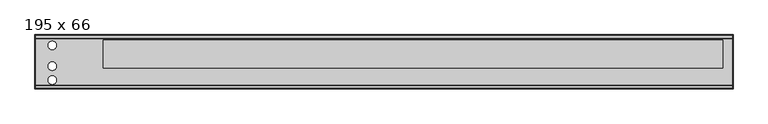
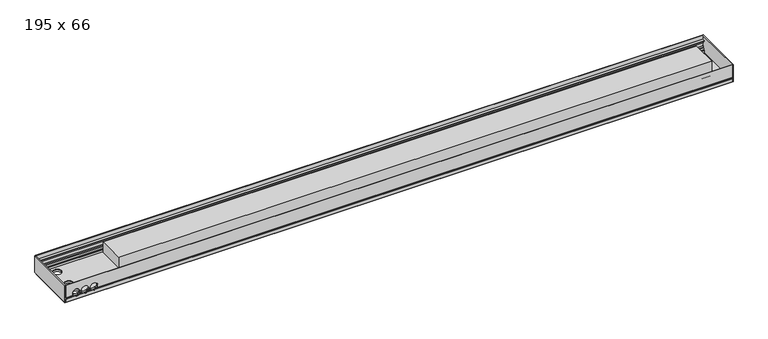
"""IFC4 building model written with IfcOpenShell, lengths in millimetres: proxy geometry, Mohlenhof_Внутрипольный конвектор_QSKM : 195 x 66."""

from ifc_helpers import new_model, si_unit, point, frame, frame_2d, origin, place, context, project, spatial, polyline, circle_curve, ellipse_curve, trimmed, segment, composite_curve, outline, extrude, source, transform, mapped, element, save
from ifc_brep_helpers import plane_surface, revolved_surface, advanced_brep


def proxy_195_x_66_e939ad13(model_context):
    return source(origin(), model_context, "Body", "SolidModel", [
        advanced_brep(
        [(1248.0, -295.0, -48.5473602), (1248.0, -293.5, -49.2468216), (1248.0, -292.5, -49.2468216), (1248.0, -292.5, -46.0008038), (1248.0, -290.0, -46.0008038), (1248.0, -290.0, -56.5008038), (1248.0, -292.5, -56.5008038), (1248.0, -292.5, -53.2468216), (1248.0, -293.5, -53.2468216), (1248.0, -295.0, -53.9462831), (1248.0, -295.0, -66.5), (1248.0, -291.0, -66.5), (1248.0, -291.0, -65.2), (1248.0, -293.0, -65.2), (1248.0, -293.0, -62.5), (1248.0, -282.0, -62.5), (1248.0, -282.0, -54.9172677), (1248.0, -283.4172677, -53.5), (1248.0, -287.0, -53.5), (1248.0, -287.0, -45.91), (1248.0, -289.0, -43.91), (1248.0, -289.0, -39.5), (1248.0, -290.0, -39.5), (1248.0, -290.0, -43.5), (1248.0, -292.4956439, -43.5), (1248.0, -292.4956439, -23.0), (1248.0, -290.0, -23.0), (1248.0, -290.0, -27.0), (1248.0, -289.0, -27.0), (1248.0, -289.0, -17.0), (1248.0, -283.3956439, -17.0), (1248.0, -283.3956439, -15.0), (1248.0, -293.4, -15.0), (1248.0, -293.4, 0.0), (1248.0, -295.0, 0.0), (-1248.0, -295.0, -48.5473602), (-1248.0, -295.0, 0.0), (-1248.0, -293.4, 0.0), (-1248.0, -293.4, -15.0), (-1248.0, -283.3956439, -15.0), (-1248.0, -283.3956439, -17.0), (-1248.0, -289.0, -17.0), (-1248.0, -289.0, -27.0), (-1248.0, -290.0, -27.0), (-1248.0, -290.0, -23.0), (-1248.0, -292.4956439, -23.0), (-1248.0, -292.4956439, -43.5), (-1248.0, -290.0, -43.5), (-1248.0, -290.0, -39.5), (-1248.0, -289.0, -39.5), (-1248.0, -289.0, -43.91), (-1248.0, -287.0, -45.91), (-1248.0, -287.0, -53.5), (-1248.0, -283.4172677, -53.5), (-1248.0, -282.0, -54.9172677), (-1248.0, -282.0, -62.5), (-1248.0, -293.0, -62.5), (-1248.0, -293.0, -65.2), (-1248.0, -291.0, -65.2), (-1248.0, -291.0, -66.5), (-1248.0, -295.0, -66.5), (-1248.0, -295.0, -53.9462831), (-1248.0, -293.5, -53.2468216), (-1248.0, -292.5, -53.2468216), (-1248.0, -292.5, -56.5008038), (-1248.0, -290.0, -56.5008038), (-1248.0, -290.0, -46.0008038), (-1248.0, -292.5, -46.0008038), (-1248.0, -292.5, -49.2468216), (-1248.0, -293.5, -49.2468216), (-1128.7585985, -295.0, -48.5473602), (-1129.155283, -293.5, -49.2468216), (-1220.844717, -293.5, -49.2468216), (-1221.2414015, -295.0, -48.5473602), (-1188.2414015, -295.0, -48.5473602), (-1194.7585985, -295.0, -48.5473602), (-1195.155283, -293.5, -49.2468216), (-1187.844717, -293.5, -49.2468216), (-1155.2414015, -295.0, -48.5473602), (-1161.7585985, -295.0, -48.5473602), (-1162.155283, -293.5, -49.2468216), (-1154.844717, -293.5, -49.2468216), (-1129.155283, -292.5, -49.2468216), (-1220.844717, -292.5, -49.2468216), (-1195.155283, -292.5, -49.2468216), (-1187.844717, -292.5, -49.2468216), (-1162.155283, -292.5, -49.2468216), (-1154.844717, -292.5, -49.2468216), (-1127.6911648, -292.5, -46.0008038), (-1222.3088352, -292.5, -46.0008038), (-1193.6911648, -292.5, -46.0008038), (-1189.3088352, -292.5, -46.0008038), (-1160.6911648, -292.5, -46.0008038), (-1156.3088352, -292.5, -46.0008038), (-1127.6911648, -290.0, -46.0008038), (-1222.3088352, -290.0, -46.0008038), (-1193.6911648, -290.0, -46.0008038), (-1189.3088352, -290.0, -46.0008038), (-1160.6911648, -290.0, -46.0008038), (-1156.3088352, -290.0, -46.0008038), (-1217.328032, -292.5, -53.2468216), (-1198.671968, -292.5, -53.2468216), (-1184.328032, -292.5, -53.2468216), (-1165.671968, -292.5, -53.2468216), (-1151.328032, -292.5, -53.2468216), (-1132.671968, -292.5, -53.2468216), (-1132.671968, -293.5, -53.2468216), (-1217.328032, -293.5, -53.2468216), (-1198.671968, -293.5, -53.2468216), (-1184.328032, -293.5, -53.2468216), (-1165.671968, -293.5, -53.2468216), (-1151.328032, -293.5, -53.2468216), (-1133.6280208, -295.0, -53.9462831), (-1216.3719792, -295.0, -53.9462831), (-1199.6280208, -295.0, -53.9462831), (-1183.3719792, -295.0, -53.9462831), (-1166.6280208, -295.0, -53.9462831), (-1150.3719792, -295.0, -53.9462831), (-1214.7064841, -282.0, -54.9172677), (-1201.2935159, -282.0, -54.9172677), (-1181.7064841, -282.0, -54.9172677), (-1168.2935159, -282.0, -54.9172677), (-1148.7064841, -282.0, -54.9172677), (-1135.2935159, -282.0, -54.9172677), (-1133.0, -283.4172677, -53.5), (-1217.0, -283.4172677, -53.5), (-1199.0, -283.4172677, -53.5), (-1184.0, -283.4172677, -53.5), (-1166.0, -283.4172677, -53.5), (-1151.0, -283.4172677, -53.5), (-1133.0, -287.0, -53.5), (-1217.0, -287.0, -53.5), (-1199.0, -287.0, -53.5), (-1184.0, -287.0, -53.5), (-1166.0, -287.0, -53.5), (-1151.0, -287.0, -53.5), (-1127.6629187, -287.0, -45.91), (-1222.3370813, -287.0, -45.91), (-1193.6629187, -287.0, -45.91), (-1189.3370813, -287.0, -45.91), (-1160.6629187, -287.0, -45.91), (-1156.3370813, -287.0, -45.91), (-1127.1948691, -289.0, -43.91), (-1222.8051309, -289.0, -43.91), (-1193.1948691, -289.0, -43.91), (-1189.8051309, -289.0, -43.91), (-1160.1948691, -289.0, -43.91), (-1156.8051309, -289.0, -43.91), (-1127.0, -289.0, -41.5), (-1127.1339313, -289.0, -39.5), (-1222.8660687, -289.0, -39.5), (-1223.0, -289.0, -41.5), (-1193.0, -289.0, -41.5), (-1193.1339313, -289.0, -39.5), (-1189.8660687, -289.0, -39.5), (-1190.0, -289.0, -41.5), (-1160.0, -289.0, -41.5), (-1160.1339313, -289.0, -39.5), (-1156.8660687, -289.0, -39.5), (-1157.0, -289.0, -41.5), (-1127.1339313, -290.0, -39.5), (-1222.8660687, -290.0, -39.5), (-1193.1339313, -290.0, -39.5), (-1189.8660687, -290.0, -39.5), (-1160.1339313, -290.0, -39.5), (-1156.8660687, -290.0, -39.5), (-1127.0, -290.0, -41.5), (-1127.1339313, -290.0, -43.5), (-1222.8660687, -290.0, -43.5), (-1223.0, -290.0, -41.5), (-1193.0, -290.0, -41.5), (-1193.1339313, -290.0, -43.5), (-1189.8660687, -290.0, -43.5), (-1190.0, -290.0, -41.5), (-1160.0, -290.0, -41.5), (-1160.1339313, -290.0, -43.5), (-1156.8660687, -290.0, -43.5), (-1157.0, -290.0, -41.5), (-1127.1339313, -292.4956439, -43.5), (-1222.8660687, -292.4956439, -43.5), (-1193.1339313, -292.4956439, -43.5), (-1189.8660687, -292.4956439, -43.5), (-1160.1339313, -292.4956439, -43.5), (-1156.8660687, -292.4956439, -43.5), (-1127.0, -292.4956439, -41.5), (-1157.0, -292.4956439, -41.5), (-1160.0, -292.4956439, -41.5), (-1190.0, -292.4956439, -41.5), (-1193.0, -292.4956439, -41.5), (-1223.0, -292.4956439, -41.5), (-1211.8405729, -290.0, -27.0), (-1204.1594271, -290.0, -27.0), (-1178.8405729, -290.0, -27.0), (-1171.1594271, -290.0, -27.0), (-1145.8405729, -290.0, -27.0), (-1138.1594271, -290.0, -27.0), (-1138.1594271, -289.0, -27.0), (-1211.8405729, -289.0, -27.0), (-1204.1594271, -289.0, -27.0), (-1178.8405729, -289.0, -27.0), (-1171.1594271, -289.0, -27.0), (-1145.8405729, -289.0, -27.0), (-1223.0, -295.0, -41.5), (-1193.0, -295.0, -41.5), (-1190.0, -295.0, -41.5), (-1160.0, -295.0, -41.5), (-1157.0, -295.0, -41.5), (-1127.0, -295.0, -41.5)],
        [
            (0, 1),
            (1, 2),
            (2, 3),
            (3, 4),
            (4, 5),
            (5, 6),
            (6, 7),
            (7, 8),
            (8, 9),
            (9, 10),
            (10, 11),
            (11, 12),
            (12, 13),
            (13, 14),
            (14, 15),
            (15, 16),
            (16, 17),
            (17, 18),
            (18, 19),
            (19, 20),
            (20, 21),
            (21, 22),
            (22, 23),
            (23, 24),
            (24, 25),
            (25, 26),
            (26, 27),
            (27, 28),
            (28, 29),
            (29, 30),
            (30, 31),
            (31, 32),
            (32, 33),
            (33, 34),
            (34, 0),
            (35, 36),
            (36, 37),
            (37, 38),
            (38, 39),
            (39, 40),
            (40, 41),
            (41, 42),
            (42, 43),
            (43, 44),
            (44, 45),
            (45, 46),
            (46, 47),
            (47, 48),
            (48, 49),
            (49, 50),
            (50, 51),
            (51, 52),
            (52, 53),
            (53, 54),
            (54, 55),
            (55, 56),
            (56, 57),
            (57, 58),
            (58, 59),
            (59, 60),
            (60, 61),
            (61, 62),
            (62, 63),
            (63, 64),
            (64, 65),
            (65, 66),
            (66, 67),
            (67, 68),
            (68, 69),
            (69, 35),
            (0, 70),
            (70, 71, ellipse_curve(frame((-1142.0, -310.1131126, -41.5), z_axis=(0.0, 0.42261826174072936, 0.9063077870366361), x_axis=(0.0, -0.906307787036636, 0.4226182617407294)), 35.4930237, 15.0)),
            (71, 1),
            (69, 72),
            (72, 73, ellipse_curve(frame((-1208.0, -310.1131126, -41.5), z_axis=(0.0, 0.42261826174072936, 0.9063077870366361), x_axis=(0.0, -0.906307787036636, 0.4226182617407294)), 35.4930237, 15.0)),
            (73, 35),
            (74, 75),
            (75, 76, ellipse_curve(frame((-1208.0, -310.1131126, -41.5), z_axis=(0.0, 0.42261826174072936, 0.9063077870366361), x_axis=(0.0, -0.906307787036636, 0.4226182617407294)), 35.4930237, 15.0)),
            (76, 77),
            (77, 74, ellipse_curve(frame((-1175.0, -310.1131126, -41.5), z_axis=(0.0, 0.42261826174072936, 0.9063077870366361), x_axis=(0.0, -0.906307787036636, 0.4226182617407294)), 35.4930237, 15.0)),
            (78, 79),
            (79, 80, ellipse_curve(frame((-1175.0, -310.1131126, -41.5), z_axis=(0.0, 0.42261826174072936, 0.9063077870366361), x_axis=(0.0, -0.906307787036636, 0.4226182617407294)), 35.4930237, 15.0)),
            (80, 81),
            (81, 78, ellipse_curve(frame((-1142.0, -310.1131126, -41.5), z_axis=(0.0, 0.42261826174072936, 0.9063077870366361), x_axis=(0.0, -0.906307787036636, 0.4226182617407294)), 35.4930237, 15.0)),
            (71, 82),
            (82, 2),
            (68, 83),
            (83, 72),
            (76, 84),
            (84, 85),
            (85, 77),
            (80, 86),
            (86, 87),
            (87, 81),
            (82, 88, circle_curve(frame((-1142.0, -292.5, -41.5), z_axis=(0.0, -1.0, 0.0), x_axis=(1.0, 0.0, 0.0)), 15.0)),
            (88, 3),
            (67, 89),
            (89, 83, circle_curve(frame((-1208.0, -292.5, -41.5), z_axis=(0.0, -1.0, 0.0), x_axis=(1.0, 0.0, 0.0)), 15.0)),
            (84, 90, circle_curve(frame((-1208.0, -292.5, -41.5), z_axis=(0.0, -1.0, 0.0), x_axis=(1.0, 0.0, 0.0)), 15.0)),
            (90, 91),
            (91, 85, circle_curve(frame((-1175.0, -292.5, -41.5), z_axis=(0.0, -1.0, 0.0), x_axis=(1.0, 0.0, 0.0)), 15.0)),
            (86, 92, circle_curve(frame((-1175.0, -292.5, -41.5), z_axis=(0.0, -1.0, 0.0), x_axis=(1.0, 0.0, 0.0)), 15.0)),
            (92, 93),
            (93, 87, circle_curve(frame((-1142.0, -292.5, -41.5), z_axis=(0.0, -1.0, 0.0), x_axis=(1.0, 0.0, 0.0)), 15.0)),
            (88, 94),
            (94, 4),
            (66, 95),
            (95, 89),
            (90, 96),
            (96, 97),
            (97, 91),
            (92, 98),
            (98, 99),
            (99, 93),
            (94, 99, circle_curve(frame((-1142.0, -290.0, -41.5), z_axis=(0.0, 1.0, 0.0), x_axis=(1.0, 0.0, 0.0)), 15.0)),
            (98, 97, circle_curve(frame((-1175.0, -290.0, -41.5), z_axis=(0.0, 1.0, 0.0), x_axis=(1.0, 0.0, 0.0)), 15.0)),
            (96, 95, circle_curve(frame((-1208.0, -290.0, -41.5), z_axis=(0.0, 1.0, 0.0), x_axis=(1.0, 0.0, 0.0)), 15.0)),
            (65, 5),
            (64, 6),
            (63, 100),
            (100, 101, circle_curve(frame((-1208.0, -292.5, -41.5), z_axis=(0.0, -1.0, 0.0), x_axis=(1.0, 0.0, 0.0)), 15.0)),
            (101, 102),
            (102, 103, circle_curve(frame((-1175.0, -292.5, -41.5), z_axis=(0.0, -1.0, 0.0), x_axis=(1.0, 0.0, 0.0)), 15.0)),
            (103, 104),
            (104, 105, circle_curve(frame((-1142.0, -292.5, -41.5), z_axis=(0.0, -1.0, 0.0), x_axis=(1.0, 0.0, 0.0)), 15.0)),
            (105, 7),
            (105, 106),
            (106, 8),
            (62, 107),
            (107, 100),
            (101, 108),
            (108, 109),
            (109, 102),
            (103, 110),
            (110, 111),
            (111, 104),
            (106, 112, ellipse_curve(frame((-1142.0, -268.3088597, -41.5), z_axis=(0.0, 0.4226182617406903, -0.9063077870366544), x_axis=(0.0, -0.9063077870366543, -0.42261826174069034)), 35.4930237, 15.0)),
            (112, 9),
            (61, 113),
            (113, 107, ellipse_curve(frame((-1208.0, -268.3088597, -41.5), z_axis=(0.0, 0.4226182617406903, -0.9063077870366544), x_axis=(0.0, -0.9063077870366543, -0.42261826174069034)), 35.4930237, 15.0)),
            (108, 114, ellipse_curve(frame((-1208.0, -268.3088597, -41.5), z_axis=(0.0, 0.4226182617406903, -0.9063077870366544), x_axis=(0.0, -0.9063077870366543, -0.42261826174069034)), 35.4930237, 15.0)),
            (114, 115),
            (115, 109, ellipse_curve(frame((-1175.0, -268.3088597, -41.5), z_axis=(0.0, 0.4226182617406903, -0.9063077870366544), x_axis=(0.0, -0.9063077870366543, -0.42261826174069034)), 35.4930237, 15.0)),
            (110, 116, ellipse_curve(frame((-1175.0, -268.3088597, -41.5), z_axis=(0.0, 0.4226182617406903, -0.9063077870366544), x_axis=(0.0, -0.9063077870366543, -0.42261826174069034)), 35.4930237, 15.0)),
            (116, 117),
            (117, 111, ellipse_curve(frame((-1142.0, -268.3088597, -41.5), z_axis=(0.0, 0.4226182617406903, -0.9063077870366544), x_axis=(0.0, -0.9063077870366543, -0.42261826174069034)), 35.4930237, 15.0)),
            (112, 117, circle_curve(frame((-1142.0, -295.0, -41.5), z_axis=(0.0, 1.0, 0.0), x_axis=(1.0, 0.0, 0.0)), 15.0)),
            (116, 115, circle_curve(frame((-1175.0, -295.0, -41.5), z_axis=(0.0, 1.0, 0.0), x_axis=(1.0, 0.0, 0.0)), 15.0)),
            (114, 113, circle_curve(frame((-1208.0, -295.0, -41.5), z_axis=(0.0, 1.0, 0.0), x_axis=(1.0, 0.0, 0.0)), 15.0)),
            (60, 10),
            (59, 11),
            (58, 12),
            (57, 13),
            (56, 14),
            (55, 15),
            (54, 118),
            (118, 119, circle_curve(frame((-1208.0, -282.0, -41.5), z_axis=(0.0, -1.0, 0.0), x_axis=(1.0, 0.0, 0.0)), 15.0)),
            (119, 120),
            (120, 121, circle_curve(frame((-1175.0, -282.0, -41.5), z_axis=(0.0, -1.0, 0.0), x_axis=(1.0, 0.0, 0.0)), 15.0)),
            (121, 122),
            (122, 123, circle_curve(frame((-1142.0, -282.0, -41.5), z_axis=(0.0, -1.0, 0.0), x_axis=(1.0, 0.0, 0.0)), 15.0)),
            (123, 16),
            (123, 124, ellipse_curve(frame((-1142.0, -295.4172677, -41.5), z_axis=(0.0, -0.7071067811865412, -0.7071067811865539), x_axis=(0.0, -0.7071067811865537, 0.7071067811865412)), 21.2132034, 15.0)),
            (124, 17),
            (53, 125),
            (125, 118, ellipse_curve(frame((-1208.0, -295.4172677, -41.5), z_axis=(0.0, -0.7071067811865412, -0.7071067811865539), x_axis=(0.0, -0.7071067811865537, 0.7071067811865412)), 21.2132034, 15.0)),
            (119, 126, ellipse_curve(frame((-1208.0, -295.4172677, -41.5), z_axis=(0.0, -0.7071067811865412, -0.7071067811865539), x_axis=(0.0, -0.7071067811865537, 0.7071067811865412)), 21.2132034, 15.0)),
            (126, 127),
            (127, 120, ellipse_curve(frame((-1175.0, -295.4172677, -41.5), z_axis=(0.0, -0.7071067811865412, -0.7071067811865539), x_axis=(0.0, -0.7071067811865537, 0.7071067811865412)), 21.2132034, 15.0)),
            (121, 128, ellipse_curve(frame((-1175.0, -295.4172677, -41.5), z_axis=(0.0, -0.7071067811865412, -0.7071067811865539), x_axis=(0.0, -0.7071067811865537, 0.7071067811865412)), 21.2132034, 15.0)),
            (128, 129),
            (129, 122, ellipse_curve(frame((-1142.0, -295.4172677, -41.5), z_axis=(0.0, -0.7071067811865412, -0.7071067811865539), x_axis=(0.0, -0.7071067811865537, 0.7071067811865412)), 21.2132034, 15.0)),
            (124, 130),
            (130, 18),
            (52, 131),
            (131, 125),
            (126, 132),
            (132, 133),
            (133, 127),
            (128, 134),
            (134, 135),
            (135, 129),
            (130, 136, circle_curve(frame((-1142.0, -287.0, -41.5), z_axis=(0.0, -1.0, 0.0), x_axis=(1.0, 0.0, 0.0)), 15.0)),
            (136, 19),
            (51, 137),
            (137, 131, circle_curve(frame((-1208.0, -287.0, -41.5), z_axis=(0.0, -1.0, 0.0), x_axis=(1.0, 0.0, 0.0)), 15.0)),
            (132, 138, circle_curve(frame((-1208.0, -287.0, -41.5), z_axis=(0.0, -1.0, 0.0), x_axis=(1.0, 0.0, 0.0)), 15.0)),
            (138, 139),
            (139, 133, circle_curve(frame((-1175.0, -287.0, -41.5), z_axis=(0.0, -1.0, 0.0), x_axis=(1.0, 0.0, 0.0)), 15.0)),
            (134, 140, circle_curve(frame((-1175.0, -287.0, -41.5), z_axis=(0.0, -1.0, 0.0), x_axis=(1.0, 0.0, 0.0)), 15.0)),
            (140, 141),
            (141, 135, circle_curve(frame((-1142.0, -287.0, -41.5), z_axis=(0.0, -1.0, 0.0), x_axis=(1.0, 0.0, 0.0)), 15.0)),
            (136, 142, ellipse_curve(frame((-1142.0, -291.41, -41.5), z_axis=(0.0, -0.7071067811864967, -0.7071067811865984), x_axis=(0.0, -0.7071067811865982, 0.7071067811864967)), 21.2132034, 15.0)),
            (142, 20),
            (50, 143),
            (143, 137, ellipse_curve(frame((-1208.0, -291.41, -41.5), z_axis=(0.0, -0.7071067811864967, -0.7071067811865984), x_axis=(0.0, -0.7071067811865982, 0.7071067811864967)), 21.2132034, 15.0)),
            (138, 144, ellipse_curve(frame((-1208.0, -291.41, -41.5), z_axis=(0.0, -0.7071067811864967, -0.7071067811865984), x_axis=(0.0, -0.7071067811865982, 0.7071067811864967)), 21.2132034, 15.0)),
            (144, 145),
            (145, 139, ellipse_curve(frame((-1175.0, -291.41, -41.5), z_axis=(0.0, -0.7071067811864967, -0.7071067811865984), x_axis=(0.0, -0.7071067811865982, 0.7071067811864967)), 21.2132034, 15.0)),
            (140, 146, ellipse_curve(frame((-1175.0, -291.41, -41.5), z_axis=(0.0, -0.7071067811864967, -0.7071067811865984), x_axis=(0.0, -0.7071067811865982, 0.7071067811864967)), 21.2132034, 15.0)),
            (146, 147),
            (147, 141, ellipse_curve(frame((-1142.0, -291.41, -41.5), z_axis=(0.0, -0.7071067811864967, -0.7071067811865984), x_axis=(0.0, -0.7071067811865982, 0.7071067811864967)), 21.2132034, 15.0)),
            (142, 148, circle_curve(frame((-1142.0, -289.0, -41.5), z_axis=(0.0, -1.0, 0.0), x_axis=(1.0, 0.0, 0.0)), 15.0)),
            (148, 149, circle_curve(frame((-1142.0, -289.0, -41.5), z_axis=(0.0, -1.0, 0.0), x_axis=(1.0, 0.0, 0.0)), 15.0)),
            (149, 21),
            (49, 150),
            (150, 151, circle_curve(frame((-1208.0, -289.0, -41.5), z_axis=(0.0, -1.0, 0.0), x_axis=(1.0, 0.0, 0.0)), 15.0)),
            (151, 143, circle_curve(frame((-1208.0, -289.0, -41.5), z_axis=(0.0, -1.0, 0.0), x_axis=(1.0, 0.0, 0.0)), 15.0)),
            (144, 152, circle_curve(frame((-1208.0, -289.0, -41.5), z_axis=(0.0, -1.0, 0.0), x_axis=(1.0, 0.0, 0.0)), 15.0)),
            (152, 153, circle_curve(frame((-1208.0, -289.0, -41.5), z_axis=(0.0, -1.0, 0.0), x_axis=(1.0, 0.0, 0.0)), 15.0)),
            (153, 154),
            (154, 155, circle_curve(frame((-1175.0, -289.0, -41.5), z_axis=(0.0, -1.0, 0.0), x_axis=(1.0, 0.0, 0.0)), 15.0)),
            (155, 145, circle_curve(frame((-1175.0, -289.0, -41.5), z_axis=(0.0, -1.0, 0.0), x_axis=(1.0, 0.0, 0.0)), 15.0)),
            (146, 156, circle_curve(frame((-1175.0, -289.0, -41.5), z_axis=(0.0, -1.0, 0.0), x_axis=(1.0, 0.0, 0.0)), 15.0)),
            (156, 157, circle_curve(frame((-1175.0, -289.0, -41.5), z_axis=(0.0, -1.0, 0.0), x_axis=(1.0, 0.0, 0.0)), 15.0)),
            (157, 158),
            (158, 159, circle_curve(frame((-1142.0, -289.0, -41.5), z_axis=(0.0, -1.0, 0.0), x_axis=(1.0, 0.0, 0.0)), 15.0)),
            (159, 147, circle_curve(frame((-1142.0, -289.0, -41.5), z_axis=(0.0, -1.0, 0.0), x_axis=(1.0, 0.0, 0.0)), 15.0)),
            (149, 160),
            (160, 22),
            (48, 161),
            (161, 150),
            (153, 162),
            (162, 163),
            (163, 154),
            (157, 164),
            (164, 165),
            (165, 158),
            (160, 166, circle_curve(frame((-1142.0, -290.0, -41.5), z_axis=(0.0, 1.0, 0.0), x_axis=(1.0, 0.0, 0.0)), 15.0)),
            (166, 167, circle_curve(frame((-1142.0, -290.0, -41.5), z_axis=(0.0, 1.0, 0.0), x_axis=(1.0, 0.0, 0.0)), 15.0)),
            (167, 23),
            (47, 168),
            (168, 169, circle_curve(frame((-1208.0, -290.0, -41.5), z_axis=(0.0, 1.0, 0.0), x_axis=(1.0, 0.0, 0.0)), 15.0)),
            (169, 161, circle_curve(frame((-1208.0, -290.0, -41.5), z_axis=(0.0, 1.0, 0.0), x_axis=(1.0, 0.0, 0.0)), 15.0)),
            (162, 170, circle_curve(frame((-1208.0, -290.0, -41.5), z_axis=(0.0, 1.0, 0.0), x_axis=(1.0, 0.0, 0.0)), 15.0)),
            (170, 171, circle_curve(frame((-1208.0, -290.0, -41.5), z_axis=(0.0, 1.0, 0.0), x_axis=(1.0, 0.0, 0.0)), 15.0)),
            (171, 172),
            (172, 173, circle_curve(frame((-1175.0, -290.0, -41.5), z_axis=(0.0, 1.0, 0.0), x_axis=(1.0, 0.0, 0.0)), 15.0)),
            (173, 163, circle_curve(frame((-1175.0, -290.0, -41.5), z_axis=(0.0, 1.0, 0.0), x_axis=(1.0, 0.0, 0.0)), 15.0)),
            (164, 174, circle_curve(frame((-1175.0, -290.0, -41.5), z_axis=(0.0, 1.0, 0.0), x_axis=(1.0, 0.0, 0.0)), 15.0)),
            (174, 175, circle_curve(frame((-1175.0, -290.0, -41.5), z_axis=(0.0, 1.0, 0.0), x_axis=(1.0, 0.0, 0.0)), 15.0)),
            (175, 176),
            (176, 177, circle_curve(frame((-1142.0, -290.0, -41.5), z_axis=(0.0, 1.0, 0.0), x_axis=(1.0, 0.0, 0.0)), 15.0)),
            (177, 165, circle_curve(frame((-1142.0, -290.0, -41.5), z_axis=(0.0, 1.0, 0.0), x_axis=(1.0, 0.0, 0.0)), 15.0)),
            (167, 178),
            (178, 24),
            (46, 179),
            (179, 168),
            (171, 180),
            (180, 181),
            (181, 172),
            (175, 182),
            (182, 183),
            (183, 176),
            (178, 184, circle_curve(frame((-1142.0, -292.4956439, -41.5), z_axis=(0.0, -1.0, 0.0), x_axis=(1.0, 0.0, 0.0)), 15.0)),
            (184, 185, circle_curve(frame((-1142.0, -292.4956439, -41.5), z_axis=(0.0, -1.0, 0.0), x_axis=(1.0, 0.0, 0.0)), 15.0)),
            (185, 183, circle_curve(frame((-1142.0, -292.4956439, -41.5), z_axis=(0.0, -1.0, 0.0), x_axis=(1.0, 0.0, 0.0)), 15.0)),
            (182, 186, circle_curve(frame((-1175.0, -292.4956439, -41.5), z_axis=(0.0, -1.0, 0.0), x_axis=(1.0, 0.0, 0.0)), 15.0)),
            (186, 187, circle_curve(frame((-1175.0, -292.4956439, -41.5), z_axis=(0.0, -1.0, 0.0), x_axis=(1.0, 0.0, 0.0)), 15.0)),
            (187, 181, circle_curve(frame((-1175.0, -292.4956439, -41.5), z_axis=(0.0, -1.0, 0.0), x_axis=(1.0, 0.0, 0.0)), 15.0)),
            (180, 188, circle_curve(frame((-1208.0, -292.4956439, -41.5), z_axis=(0.0, -1.0, 0.0), x_axis=(1.0, 0.0, 0.0)), 15.0)),
            (188, 189, circle_curve(frame((-1208.0, -292.4956439, -41.5), z_axis=(0.0, -1.0, 0.0), x_axis=(1.0, 0.0, 0.0)), 15.0)),
            (189, 179, circle_curve(frame((-1208.0, -292.4956439, -41.5), z_axis=(0.0, -1.0, 0.0), x_axis=(1.0, 0.0, 0.0)), 15.0)),
            (45, 25),
            (44, 26),
            (43, 190),
            (190, 191, circle_curve(frame((-1208.0, -290.0, -41.5), z_axis=(0.0, 1.0, 0.0), x_axis=(1.0, 0.0, 0.0)), 15.0)),
            (191, 192),
            (192, 193, circle_curve(frame((-1175.0, -290.0, -41.5), z_axis=(0.0, 1.0, 0.0), x_axis=(1.0, 0.0, 0.0)), 15.0)),
            (193, 194),
            (194, 195, circle_curve(frame((-1142.0, -290.0, -41.5), z_axis=(0.0, 1.0, 0.0), x_axis=(1.0, 0.0, 0.0)), 15.0)),
            (195, 27),
            (195, 196),
            (196, 28),
            (42, 197),
            (197, 190),
            (191, 198),
            (198, 199),
            (199, 192),
            (193, 200),
            (200, 201),
            (201, 194),
            (196, 201, circle_curve(frame((-1142.0, -289.0, -41.5), z_axis=(0.0, -1.0, 0.0), x_axis=(1.0, 0.0, 0.0)), 15.0)),
            (200, 199, circle_curve(frame((-1175.0, -289.0, -41.5), z_axis=(0.0, -1.0, 0.0), x_axis=(1.0, 0.0, 0.0)), 15.0)),
            (198, 197, circle_curve(frame((-1208.0, -289.0, -41.5), z_axis=(0.0, -1.0, 0.0), x_axis=(1.0, 0.0, 0.0)), 15.0)),
            (41, 29),
            (40, 30),
            (39, 31),
            (38, 32),
            (37, 33),
            (36, 34),
            (73, 202, circle_curve(frame((-1208.0, -295.0, -41.5), z_axis=(0.0, 1.0, 0.0), x_axis=(1.0, 0.0, 0.0)), 15.0)),
            (202, 203, circle_curve(frame((-1208.0, -295.0, -41.5), z_axis=(0.0, 1.0, 0.0), x_axis=(1.0, 0.0, 0.0)), 15.0)),
            (203, 75, circle_curve(frame((-1208.0, -295.0, -41.5), z_axis=(0.0, 1.0, 0.0), x_axis=(1.0, 0.0, 0.0)), 15.0)),
            (74, 204, circle_curve(frame((-1175.0, -295.0, -41.5), z_axis=(0.0, 1.0, 0.0), x_axis=(1.0, 0.0, 0.0)), 15.0)),
            (204, 205, circle_curve(frame((-1175.0, -295.0, -41.5), z_axis=(0.0, 1.0, 0.0), x_axis=(1.0, 0.0, 0.0)), 15.0)),
            (205, 79, circle_curve(frame((-1175.0, -295.0, -41.5), z_axis=(0.0, 1.0, 0.0), x_axis=(1.0, 0.0, 0.0)), 15.0)),
            (78, 206, circle_curve(frame((-1142.0, -295.0, -41.5), z_axis=(0.0, 1.0, 0.0), x_axis=(1.0, 0.0, 0.0)), 15.0)),
            (206, 207, circle_curve(frame((-1142.0, -295.0, -41.5), z_axis=(0.0, 1.0, 0.0), x_axis=(1.0, 0.0, 0.0)), 15.0)),
            (207, 70, circle_curve(frame((-1142.0, -295.0, -41.5), z_axis=(0.0, 1.0, 0.0), x_axis=(1.0, 0.0, 0.0)), 15.0)),
            (151, 169),
            (189, 202),
            (203, 188),
            (170, 152),
            (155, 173),
            (187, 204),
            (205, 186),
            (174, 156),
            (159, 177),
            (185, 206),
            (207, 184),
            (166, 148),
        ],
        [
            plane_surface(frame((1248.0, -293.0, -62.5), z_axis=(1.0, 0.0, 0.0), x_axis=(0.0, 0.0, 1.0))),
            plane_surface(frame((-1248.0, -293.0, -62.5), z_axis=(-1.0, 0.0, 0.0), x_axis=(0.0, 0.0, 1.0))),
            plane_surface(frame((1248.0, -295.0, -48.5473602), z_axis=(0.0, -0.42261826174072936, -0.9063077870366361), x_axis=(-1.0, 0.0, 0.0))),
            plane_surface(frame((1248.0, -293.5, -49.2468216), z_axis=(0.0, 0.0, -1.0), x_axis=(-1.0, 0.0, 0.0))),
            plane_surface(frame((1248.0, -292.5, -49.2468216), z_axis=(0.0, 1.0, 0.0), x_axis=(-1.0, 0.0, 0.0))),
            plane_surface(frame((1248.0, -292.5, -46.0008038), z_axis=(0.0, 0.0, -1.0), x_axis=(-1.0, 0.0, 0.0))),
            plane_surface(frame((1248.0, -290.0, -46.0008038), z_axis=(0.0, -1.0, 0.0), x_axis=(-1.0, 0.0, 0.0))),
            plane_surface(frame((1248.0, -290.0, -56.5008038), z_axis=(0.0, 0.0, 1.0), x_axis=(-1.0, 0.0, 0.0))),
            plane_surface(frame((1248.0, -292.5, -56.5008038), z_axis=(0.0, 1.0, 0.0), x_axis=(-1.0, 0.0, 0.0))),
            plane_surface(frame((1248.0, -292.5, -53.2468216), z_axis=(0.0, 0.0, 1.0), x_axis=(-1.0, 0.0, 0.0))),
            plane_surface(frame((1248.0, -293.5, -53.2468216), z_axis=(0.0, -0.4226182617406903, 0.9063077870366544), x_axis=(-1.0, 0.0, 0.0))),
            plane_surface(frame((1248.0, -295.0, -53.9462831), z_axis=(0.0, -1.0, 0.0), x_axis=(-1.0, 0.0, 0.0))),
            plane_surface(frame((1248.0, -295.0, -66.5), z_axis=(0.0, 0.0, -1.0), x_axis=(-1.0, 0.0, 0.0))),
            plane_surface(frame((1248.0, -291.0, -66.5), z_axis=(0.0, 1.0, 0.0), x_axis=(-1.0, 0.0, 0.0))),
            plane_surface(frame((1248.0, -291.0, -65.2), z_axis=(0.0, 0.0, 1.0), x_axis=(-1.0, 0.0, 0.0))),
            plane_surface(frame((1248.0, -293.0, -65.2), z_axis=(0.0, 1.0, 0.0), x_axis=(-1.0, 0.0, 0.0))),
            plane_surface(frame((1248.0, -293.0, -62.5), z_axis=(0.0, 0.0, -1.0), x_axis=(-1.0, 0.0, 0.0))),
            plane_surface(frame((1248.0, -282.0, -62.5), z_axis=(0.0, 1.0, 0.0), x_axis=(-1.0, 0.0, 0.0))),
            plane_surface(frame((1248.0, -282.0, -54.9172677), z_axis=(0.0, 0.7071067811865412, 0.7071067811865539), x_axis=(-1.0, 0.0, 0.0))),
            plane_surface(frame((1248.0, -283.4172677, -53.5), z_axis=(0.0, 0.0, 1.0), x_axis=(-1.0, 0.0, 0.0))),
            plane_surface(frame((1248.0, -287.0, -53.5), z_axis=(0.0, 1.0, 0.0), x_axis=(-1.0, 0.0, 0.0))),
            plane_surface(frame((1248.0, -287.0, -45.91), z_axis=(0.0, 0.7071067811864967, 0.7071067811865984), x_axis=(-1.0, 0.0, 0.0))),
            plane_surface(frame((1248.0, -289.0, -43.91), z_axis=(0.0, 1.0, 0.0), x_axis=(-1.0, 0.0, 0.0))),
            plane_surface(frame((1248.0, -289.0, -39.5), z_axis=(0.0, 0.0, 1.0), x_axis=(-1.0, 0.0, 0.0))),
            plane_surface(frame((1248.0, -290.0, -39.5), z_axis=(0.0, -1.0, 0.0), x_axis=(-1.0, 0.0, 0.0))),
            plane_surface(frame((1248.0, -290.0, -43.5), z_axis=(0.0, 0.0, 1.0), x_axis=(-1.0, 0.0, 0.0))),
            plane_surface(frame((1248.0, -292.4956439, -43.5), z_axis=(0.0, 1.0, 0.0), x_axis=(-1.0, 0.0, 0.0))),
            plane_surface(frame((1248.0, -292.4956439, -23.0), z_axis=(0.0, 0.0, -1.0), x_axis=(-1.0, 0.0, 0.0))),
            plane_surface(frame((1248.0, -290.0, -23.0), z_axis=(0.0, -1.0, 0.0), x_axis=(-1.0, 0.0, 0.0))),
            plane_surface(frame((1248.0, -290.0, -27.0), z_axis=(0.0, 0.0, -1.0), x_axis=(-1.0, 0.0, 0.0))),
            plane_surface(frame((1248.0, -289.0, -27.0), z_axis=(0.0, 1.0, 0.0), x_axis=(-1.0, 0.0, 0.0))),
            plane_surface(frame((1248.0, -289.0, -17.0), z_axis=(0.0, 0.0, -1.0), x_axis=(-1.0, 0.0, 0.0))),
            plane_surface(frame((1248.0, -283.3956439, -17.0), z_axis=(0.0, 1.0, 0.0), x_axis=(-1.0, 0.0, 0.0))),
            plane_surface(frame((1248.0, -283.3956439, -15.0), z_axis=(0.0, 0.0, 1.0), x_axis=(-1.0, 0.0, 0.0))),
            plane_surface(frame((1248.0, -293.4, -15.0), z_axis=(0.0, 1.0, 0.0), x_axis=(-1.0, 0.0, 0.0))),
            plane_surface(frame((1248.0, -293.4, 0.0), z_axis=(0.0, 0.0, 1.0), x_axis=(-1.0, 0.0, 0.0))),
            plane_surface(frame((1248.0, -295.0, 0.0), z_axis=(0.0, -1.0, 0.0), x_axis=(-1.0, 0.0, 0.0))),
            revolved_surface(polyline([(-1193.0, -300.47646346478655, -41.5), (-1193.0, -236.1412559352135, -41.5)]), (-1208.0, -263.0, -41.5), (0.0, -1.0, 0.0)),
            revolved_surface(polyline([(-1193.0, -342.2807163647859, -41.5), (-1193.0, -276.41000002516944, -41.5)]), (-1208.0, -263.0, -41.5), (0.0, -1.0, 0.0)),
            revolved_surface(polyline([(-1193.0, -290.0, -41.5), (-1193.0, -289.0, -41.5)]), (-1208.0, -263.0, -41.5), (0.0, -1.0, 0.0)),
            revolved_surface(polyline([(-1193.0, -295.0, -41.5), (-1193.0, -292.4956439, -41.5)]), (-1208.0, -263.0, -41.5), (0.0, -1.0, 0.0)),
            revolved_surface(polyline([(-1160.0, -300.47646346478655, -41.5), (-1160.0, -236.1412559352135, -41.5)]), (-1175.0, 0.0, -41.5), (0.0, -1.0, 0.0)),
            revolved_surface(polyline([(-1160.0, -342.2807163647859, -41.5), (-1160.0, -276.41000002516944, -41.5)]), (-1175.0, 0.0, -41.5), (0.0, -1.0, 0.0)),
            revolved_surface(polyline([(-1160.0, -290.0, -41.5), (-1160.0, -289.0, -41.5)]), (-1175.0, 0.0, -41.5), (0.0, -1.0, 0.0)),
            revolved_surface(polyline([(-1160.0, -295.0, -41.5), (-1160.0, -292.4956439, -41.5)]), (-1175.0, 0.0, -41.5), (0.0, -1.0, 0.0)),
            revolved_surface(polyline([(-1127.0, -300.47646346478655, -41.5), (-1127.0, -236.1412559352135, -41.5)]), (-1142.0, 0.0, -41.5), (0.0, -1.0, 0.0)),
            revolved_surface(polyline([(-1127.0, -342.2807163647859, -41.5), (-1127.0, -276.41000002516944, -41.5)]), (-1142.0, 0.0, -41.5), (0.0, -1.0, 0.0)),
            revolved_surface(polyline([(-1127.0, -290.0, -41.5), (-1127.0, -289.0, -41.5)]), (-1142.0, 0.0, -41.5), (0.0, -1.0, 0.0)),
            revolved_surface(polyline([(-1127.0, -295.0, -41.5), (-1127.0, -292.4956439, -41.5)]), (-1142.0, 0.0, -41.5), (0.0, -1.0, 0.0)),
        ],
        [
            (0, [[1, 2, 3, 4, 5, 6, 7, 8, 9, 10, 11, 12, 13, 14, 15, 16, 17, 18, 19, 20, 21, 22, 23, 24, 25, 26, 27, 28, 29, 30, 31, 32, 33, 34, 35]]),
            (1, [[36, 37, 38, 39, 40, 41, 42, 43, 44, 45, 46, 47, 48, 49, 50, 51, 52, 53, 54, 55, 56, 57, 58, 59, 60, 61, 62, 63, 64, 65, 66, 67, 68, 69, 70]]),
            (2, [[-1, 71, 72, 73]]),
            (2, [[-70, 74, 75, 76]]),
            (2, [[77, 78, 79, 80]]),
            (2, [[81, 82, 83, 84]]),
            (3, [[-2, -73, 85, 86]]),
            (3, [[-69, 87, 88, -74]]),
            (3, [[-79, 89, 90, 91]]),
            (3, [[-83, 92, 93, 94]]),
            (4, [[-3, -86, 95, 96]]),
            (4, [[-68, 97, 98, -87]]),
            (4, [[-90, 99, 100, 101]]),
            (4, [[-93, 102, 103, 104]]),
            (5, [[-4, -96, 105, 106]]),
            (5, [[-67, 107, 108, -97]]),
            (5, [[-100, 109, 110, 111]]),
            (5, [[-103, 112, 113, 114]]),
            (6, [[-5, -106, 115, -113, 116, -110, 117, -107, -66, 118]]),
            (7, [[-6, -118, -65, 119]]),
            (8, [[-7, -119, -64, 120, 121, 122, 123, 124, 125, 126]]),
            (9, [[-8, -126, 127, 128]]),
            (9, [[-63, 129, 130, -120]]),
            (9, [[-122, 131, 132, 133]]),
            (9, [[-124, 134, 135, 136]]),
            (10, [[-9, -128, 137, 138]]),
            (10, [[-62, 139, 140, -129]]),
            (10, [[-132, 141, 142, 143]]),
            (10, [[-135, 144, 145, 146]]),
            (11, [[-10, -138, 147, -145, 148, -142, 149, -139, -61, 150]]),
            (12, [[-11, -150, -60, 151]]),
            (13, [[-12, -151, -59, 152]]),
            (14, [[-13, -152, -58, 153]]),
            (15, [[-14, -153, -57, 154]]),
            (16, [[-15, -154, -56, 155]]),
            (17, [[-16, -155, -55, 156, 157, 158, 159, 160, 161, 162]]),
            (18, [[-17, -162, 163, 164]]),
            (18, [[-54, 165, 166, -156]]),
            (18, [[-158, 167, 168, 169]]),
            (18, [[-160, 170, 171, 172]]),
            (19, [[-18, -164, 173, 174]]),
            (19, [[-53, 175, 176, -165]]),
            (19, [[-168, 177, 178, 179]]),
            (19, [[-171, 180, 181, 182]]),
            (20, [[-19, -174, 183, 184]]),
            (20, [[-52, 185, 186, -175]]),
            (20, [[-178, 187, 188, 189]]),
            (20, [[-181, 190, 191, 192]]),
            (21, [[-20, -184, 193, 194]]),
            (21, [[-51, 195, 196, -185]]),
            (21, [[-188, 197, 198, 199]]),
            (21, [[-191, 200, 201, 202]]),
            (22, [[-21, -194, 203, 204, 205]]),
            (22, [[-50, 206, 207, 208, -195]]),
            (22, [[-198, 209, 210, 211, 212, 213]]),
            (22, [[-201, 214, 215, 216, 217, 218]]),
            (23, [[-22, -205, 219, 220]]),
            (23, [[-49, 221, 222, -206]]),
            (23, [[-211, 223, 224, 225]]),
            (23, [[-216, 226, 227, 228]]),
            (24, [[-23, -220, 229, 230, 231]]),
            (24, [[-48, 232, 233, 234, -221]]),
            (24, [[-224, 235, 236, 237, 238, 239]]),
            (24, [[-227, 240, 241, 242, 243, 244]]),
            (25, [[-24, -231, 245, 246]]),
            (25, [[-47, 247, 248, -232]]),
            (25, [[-237, 249, 250, 251]]),
            (25, [[-242, 252, 253, 254]]),
            (26, [[-25, -246, 255, 256, 257, -253, 258, 259, 260, -250, 261, 262, 263, -247, -46, 264]]),
            (27, [[-26, -264, -45, 265]]),
            (28, [[-27, -265, -44, 266, 267, 268, 269, 270, 271, 272]]),
            (29, [[-28, -272, 273, 274]]),
            (29, [[-43, 275, 276, -266]]),
            (29, [[-268, 277, 278, 279]]),
            (29, [[-270, 280, 281, 282]]),
            (30, [[-29, -274, 283, -281, 284, -278, 285, -275, -42, 286]]),
            (31, [[-30, -286, -41, 287]]),
            (32, [[-31, -287, -40, 288]]),
            (33, [[-32, -288, -39, 289]]),
            (34, [[-33, -289, -38, 290]]),
            (35, [[-34, -290, -37, 291]]),
            (36, [[-35, -291, -36, -76, 292, 293, 294, -77, 295, 296, 297, -81, 298, 299, 300, -71]]),
            (37, [[-121, -130, -140, -149, -141, -131]]),
            (38, [[301, -233, -248, -263, 302, -292, -75, -88, -98, -108, -117, -109, -99, -89, -78, -294, 303, -261, -249, -236, 304, -209, -197, -187, -177, -167, -157, -166, -176, -186, -196, -208]]),
            (39, [[-267, -276, -285, -277]]),
            (39, [[-301, -207, -222, -234]]),
            (40, [[-302, -262, -303, -293]]),
            (39, [[-304, -235, -223, -210]]),
            (41, [[-123, -133, -143, -148, -144, -134]]),
            (42, [[305, -238, -251, -260, 306, -295, -80, -91, -101, -111, -116, -112, -102, -92, -82, -297, 307, -258, -252, -241, 308, -214, -200, -190, -180, -170, -159, -169, -179, -189, -199, -213]]),
            (43, [[-269, -279, -284, -280]]),
            (43, [[-305, -212, -225, -239]]),
            (44, [[-306, -259, -307, -296]]),
            (43, [[-308, -240, -226, -215]]),
            (45, [[-125, -136, -146, -147, -137, -127]]),
            (46, [[309, -243, -254, -257, 310, -298, -84, -94, -104, -114, -115, -105, -95, -85, -72, -300, 311, -255, -245, -230, 312, -203, -193, -183, -173, -163, -161, -172, -182, -192, -202, -218]]),
            (47, [[-271, -282, -283, -273]]),
            (47, [[-309, -217, -228, -244]]),
            (48, [[-310, -256, -311, -299]]),
            (47, [[-312, -229, -219, -204]]),
        ],
    ),
        extrude(outline(polyline([(-100.0, -48.5473602), (-101.5, -49.2468216), (-102.5, -49.2468216), (-102.5, -46.0008038), (-105.0, -46.0008038), (-105.0, -56.5008038), (-102.5, -56.5008038), (-102.5, -53.2468216), (-101.5, -53.2468216), (-100.0, -53.9462831), (-100.0, -66.5), (-104.0, -66.5), (-104.0, -65.2), (-102.0, -65.2), (-102.0, -62.5), (-113.0, -62.5), (-113.0, -54.9172677), (-111.5827323, -53.5), (-108.0, -53.5), (-108.0, -45.91), (-106.0, -43.91), (-106.0, -39.5), (-105.0, -39.5), (-105.0, -43.5), (-102.5043561, -43.5), (-102.5043561, -23.0), (-105.0, -23.0), (-105.0, -27.0), (-106.0, -27.0), (-106.0, -17.0), (-111.6043561, -17.0), (-111.6043561, -15.0), (-101.6, -15.0), (-101.6, 0.0), (-100.0, 0.0), (-100.0, -48.5473602)])), frame((-1248.0, 0.0, 0.0), z_axis=(1.0, 0.0, 0.0), x_axis=(0.0, 1.0, 0.0)), (0.0, 0.0, 1.0), 2496.0),
        extrude(outline(polyline([(1248.0, -104.499991), (1248.0, -290.5), (-1248.0, -290.5), (-1248.0, -104.499991), (1248.0, -104.499991)]), holes=[composite_curve([segment(trimmed(circle_curve(frame_2d((-1188.0, -138.0)), 15.0), [point((-1203.0, -138.0))], [point((-1173.0, -138.0))], True, "CARTESIAN"), True, "CONTINUOUS"), segment(trimmed(circle_curve(frame_2d((-1188.0, -138.0)), 15.0), [point((-1173.0, -138.0))], [point((-1203.0, -138.0))], True, "CARTESIAN"), True, "CONTINUOUS")], self_intersect=False), composite_curve([segment(trimmed(circle_curve(frame_2d((-1188.0, -213.0)), 15.0), [point((-1203.0, -213.0))], [point((-1173.0, -213.0))], True, "CARTESIAN"), True, "CONTINUOUS"), segment(trimmed(circle_curve(frame_2d((-1188.0, -213.0)), 15.0), [point((-1173.0, -213.0))], [point((-1203.0, -213.0))], True, "CARTESIAN"), True, "CONTINUOUS")], self_intersect=False), composite_curve([segment(trimmed(circle_curve(frame_2d((-1188.0, -263.0)), 15.0), [point((-1203.0, -263.0))], [point((-1173.0, -263.0))], True, "CARTESIAN"), True, "CONTINUOUS"), segment(trimmed(circle_curve(frame_2d((-1188.0, -263.0)), 15.0), [point((-1173.0, -263.0))], [point((-1203.0, -263.0))], True, "CARTESIAN"), True, "CONTINUOUS")], self_intersect=False)]), frame((0.0, 0.0, -71.5), z_axis=(0.0, 0.0, 1.0), x_axis=(1.0, 0.0, 0.0)), (0.0, 0.0, 1.0), 6.3),
        extrude(outline(polyline([(1248.0, -102.0), (1248.0, -293.0), (-1248.0, -293.0), (-1248.0, -102.0), (1248.0, -102.0)]), holes=[composite_curve([segment(trimmed(circle_curve(frame_2d((-1188.0, -138.0)), 15.0), [point((-1203.0, -138.0))], [point((-1173.0, -138.0))], True, "CARTESIAN"), True, "CONTINUOUS"), segment(trimmed(circle_curve(frame_2d((-1188.0, -138.0)), 15.0), [point((-1173.0, -138.0))], [point((-1203.0, -138.0))], True, "CARTESIAN"), True, "CONTINUOUS")], self_intersect=False), composite_curve([segment(trimmed(circle_curve(frame_2d((-1188.0, -213.0)), 15.0), [point((-1203.0, -213.0))], [point((-1173.0, -213.0))], True, "CARTESIAN"), True, "CONTINUOUS"), segment(trimmed(circle_curve(frame_2d((-1188.0, -213.0)), 15.0), [point((-1173.0, -213.0))], [point((-1203.0, -213.0))], True, "CARTESIAN"), True, "CONTINUOUS")], self_intersect=False), composite_curve([segment(trimmed(circle_curve(frame_2d((-1188.0, -263.0)), 15.0), [point((-1203.0, -263.0))], [point((-1173.0, -263.0))], True, "CARTESIAN"), True, "CONTINUOUS"), segment(trimmed(circle_curve(frame_2d((-1188.0, -263.0)), 15.0), [point((-1173.0, -263.0))], [point((-1203.0, -263.0))], True, "CARTESIAN"), True, "CONTINUOUS")], self_intersect=False)]), frame((0.0, 0.0, -65.2), z_axis=(0.0, 0.0, 1.0), x_axis=(1.0, 0.0, 0.0)), (0.0, 0.0, 1.0), 2.7),
        extrude(outline(polyline([(1213.0, -119.25), (1213.0, -219.25), (-1005.0, -219.25), (-1005.0, -119.25), (1213.0, -119.25)])), frame((0.0, 0.0, -62.5), z_axis=(0.0, 0.0, 1.0), x_axis=(1.0, 0.0, 0.0)), (0.0, 0.0, 1.0), 43.0),
        extrude(outline(polyline([(1250.0, -295.0), (1248.0, -295.0), (1248.0, -100.0), (1250.0, -100.0), (1250.0, -295.0)])), frame((0.0, 0.0, -66.5), z_axis=(0.0, 0.0, 1.0), x_axis=(1.0, 0.0, 0.0)), (0.0, 0.0, 1.0), 66.5),
        extrude(outline(polyline([(-1248.0, -100.0), (-1248.0, -295.0), (-1250.0, -295.0), (-1250.0, -100.0), (-1248.0, -100.0)])), frame((0.0, 0.0, -66.5), z_axis=(0.0, 0.0, 1.0), x_axis=(1.0, 0.0, 0.0)), (0.0, 0.0, 1.0), 66.5),
    ])


if __name__ == "__main__":
    model = new_model("IFC4")
    model_context = context("Model", 3, world=origin())
    ifc_project = project(units=[si_unit("LENGTHUNIT", "METRE", prefix="MILLI")], contexts=[model_context])
    site = spatial("IfcSite", under=ifc_project)
    building = spatial("IfcBuilding", under=site)
    placement = place(None, origin())
    proxy_195_x_66_shape = proxy_195_x_66_e939ad13(model_context)
    element("IfcBuildingElementProxy", 1, Name="Mohlenhof_Внутрипольный конвектор_QSKM : 195 x 66", ObjectType="Mohlenhof_Внутрипольный конвектор_QSKM : 195 x 66", at=placement, inside=building, context=model_context, shape_type="MappedRepresentation", body=[
        mapped(proxy_195_x_66_shape, transform((0.0, 0.0, 0.0), x_axis=(1.0, 0.0, 0.0), y_axis=(0.0, 1.0, 0.0), z_axis=(0.0, 0.0, 1.0))),
    ])
    save(model, "model.ifc")
